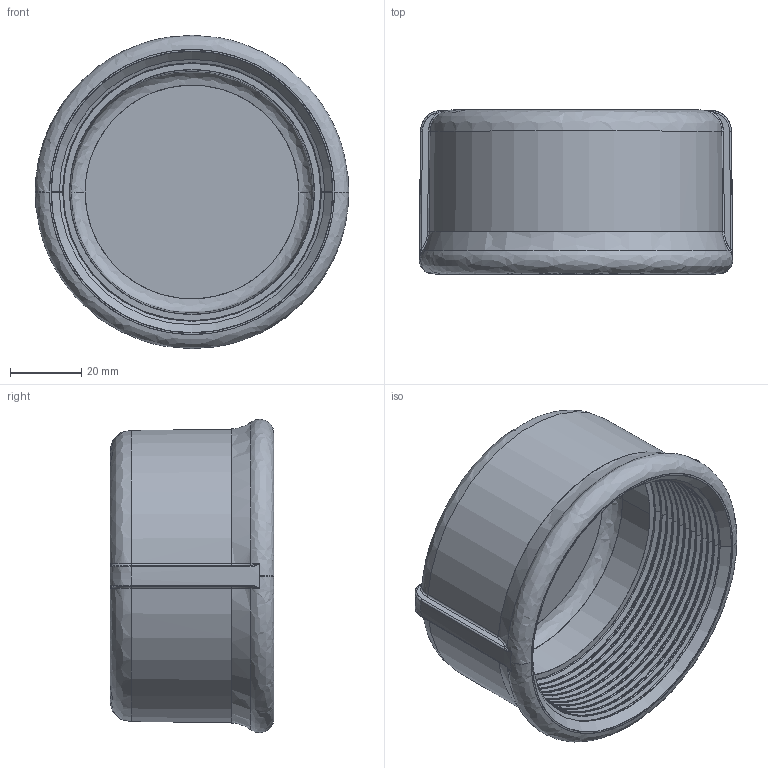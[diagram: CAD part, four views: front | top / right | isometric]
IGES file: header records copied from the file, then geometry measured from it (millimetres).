
Start section: SolidWorks IGES file using analytic representation for surfaces
Global section: file name: C:\Users\Joel Rosa\Desktop\Tubulação\12-42-XXX\12-42-011.IGS; native system: SolidWorks 2011; preprocessor: SolidWorks 2011; author: Joel Rosa; date: 131001.215013; units: millimetre
Bounding box: 88 x 46 x 87.99 mm (x, y, z)
Surface area: 35210.1 mm2 (no closed solid volume)
Topology: 0 solids, 0 shells, 284 faces, 3200 edges, 3196 vertices
Faces by surface type: bspline 228, revolution 56
